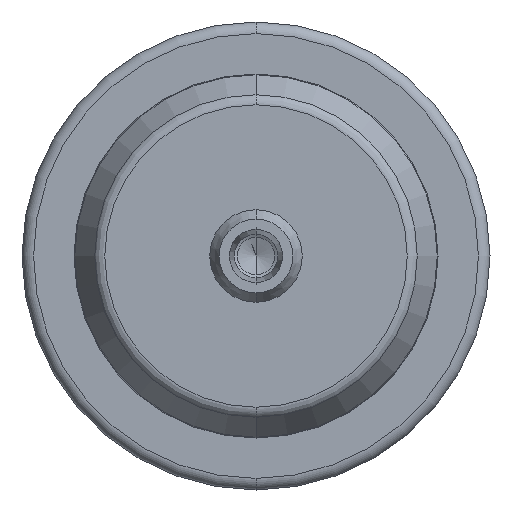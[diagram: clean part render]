
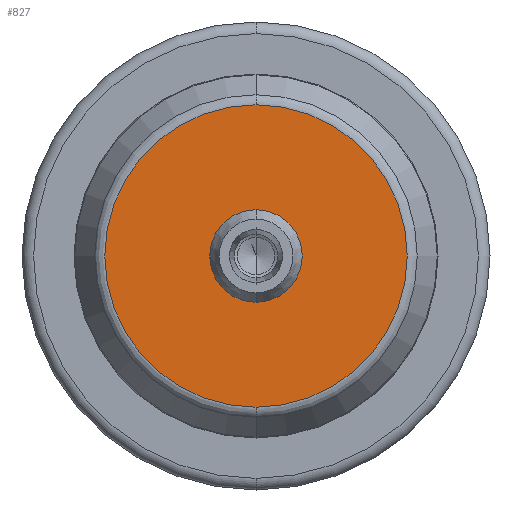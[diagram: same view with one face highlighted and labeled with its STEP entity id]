
A CAD part, front view. The second image highlights one B-rep face of the part: STEP entity #827.
In plain terms, the highlighted planar face has unit normal (0, -1, 0).
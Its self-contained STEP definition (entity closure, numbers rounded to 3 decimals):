
#23 = VERTEX_POINT ( 'NONE', #3619 ) ;
#107 = PLANE ( 'NONE',  #1051 ) ;
#184 = DIRECTION ( 'NONE',  ( 0., 0., -1. ) ) ;
#198 = CARTESIAN_POINT ( 'NONE',  ( 0., -17., -26.17 ) ) ;
#214 = AXIS2_PLACEMENT_3D ( 'NONE', #3837, #3085, #184 ) ;
#286 = ORIENTED_EDGE ( 'NONE', *, *, #3279, .T. ) ;
#382 = CARTESIAN_POINT ( 'NONE',  ( 26.17, -17., 0. ) ) ;
#600 = VERTEX_POINT ( 'NONE', #812 ) ;
#690 = CIRCLE ( 'NONE', #214, 26.17 ) ;
#766 = ORIENTED_EDGE ( 'NONE', *, *, #996, .F. ) ;
#812 = CARTESIAN_POINT ( 'NONE',  ( 0., -17., -6. ) ) ;
#827 = ADVANCED_FACE ( 'NONE', ( #3014, #2337 ), #107, .T. ) ;
#996 = EDGE_CURVE ( 'NONE', #600, #23, #2407, .T. ) ;
#1051 = AXIS2_PLACEMENT_3D ( 'NONE', #382, #2013, #3317 ) ;
#1256 = VERTEX_POINT ( 'NONE', #1627 ) ;
#1475 = CARTESIAN_POINT ( 'NONE',  ( 0., -17., 0. ) ) ;
#1610 = ORIENTED_EDGE ( 'NONE', *, *, #2158, .T. ) ;
#1627 = CARTESIAN_POINT ( 'NONE',  ( 0., -17., 26.17 ) ) ;
#1798 = EDGE_LOOP ( 'NONE', ( #286, #1610 ) ) ;
#2013 = DIRECTION ( 'NONE',  ( 0., -1., 0. ) ) ;
#2014 = DIRECTION ( 'NONE',  ( 0., 0., -1. ) ) ;
#2158 = EDGE_CURVE ( 'NONE', #1256, #2392, #690, .T. ) ;
#2306 = AXIS2_PLACEMENT_3D ( 'NONE', #3991, #3293, #2353 ) ;
#2337 = FACE_BOUND ( 'NONE', #2731, .T. ) ;
#2353 = DIRECTION ( 'NONE',  ( 0., 0., -1. ) ) ;
#2392 = VERTEX_POINT ( 'NONE', #198 ) ;
#2407 = CIRCLE ( 'NONE', #4062, 6. ) ;
#2428 = AXIS2_PLACEMENT_3D ( 'NONE', #1475, #2779, #4085 ) ;
#2455 = EDGE_CURVE ( 'NONE', #23, #600, #3316, .T. ) ;
#2699 = DIRECTION ( 'NONE',  ( 0., -1., 0. ) ) ;
#2731 = EDGE_LOOP ( 'NONE', ( #766, #2936 ) ) ;
#2779 = DIRECTION ( 'NONE',  ( 0., -1., 0. ) ) ;
#2936 = ORIENTED_EDGE ( 'NONE', *, *, #2455, .F. ) ;
#3014 = FACE_OUTER_BOUND ( 'NONE', #1798, .T. ) ;
#3085 = DIRECTION ( 'NONE',  ( 0., -1., 0. ) ) ;
#3276 = CARTESIAN_POINT ( 'NONE',  ( 0., -17., 0. ) ) ;
#3279 = EDGE_CURVE ( 'NONE', #2392, #1256, #3604, .T. ) ;
#3293 = DIRECTION ( 'NONE',  ( 0., -1., 0. ) ) ;
#3316 = CIRCLE ( 'NONE', #2428, 6. ) ;
#3317 = DIRECTION ( 'NONE',  ( 0., 0., -1. ) ) ;
#3604 = CIRCLE ( 'NONE', #2306, 26.17 ) ;
#3619 = CARTESIAN_POINT ( 'NONE',  ( 0., -17., 6. ) ) ;
#3837 = CARTESIAN_POINT ( 'NONE',  ( 0., -17., 0. ) ) ;
#3991 = CARTESIAN_POINT ( 'NONE',  ( 0., -17., 0. ) ) ;
#4062 = AXIS2_PLACEMENT_3D ( 'NONE', #3276, #2699, #2014 ) ;
#4085 = DIRECTION ( 'NONE',  ( 0., 0., -1. ) ) ;
